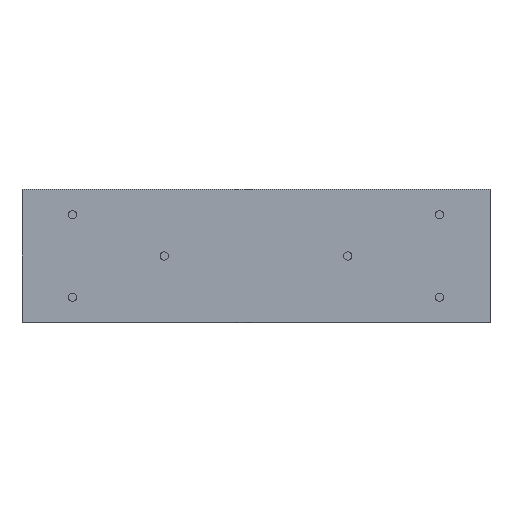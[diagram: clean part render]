
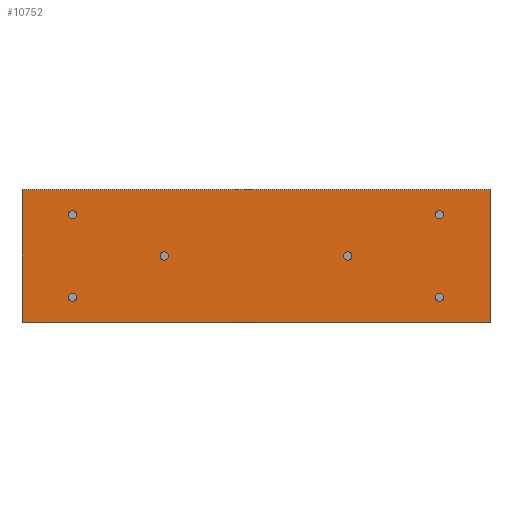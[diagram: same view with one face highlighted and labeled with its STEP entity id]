
A CAD part, front view. The second image highlights one B-rep face of the part: STEP entity #10752.
In plain terms, the highlighted planar face has unit normal (0, -1, 0).
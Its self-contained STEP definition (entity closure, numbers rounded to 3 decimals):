
#358=CIRCLE('',#11390,4.5);
#359=CIRCLE('',#11391,4.5);
#360=CIRCLE('',#11392,4.5);
#361=CIRCLE('',#11393,4.5);
#362=CIRCLE('',#11394,4.5);
#363=CIRCLE('',#11395,4.5);
#1096=ORIENTED_EDGE('',*,*,#4389,.F.);
#1097=ORIENTED_EDGE('',*,*,#4390,.F.);
#1098=ORIENTED_EDGE('',*,*,#4391,.T.);
#1099=ORIENTED_EDGE('',*,*,#4392,.F.);
#1100=ORIENTED_EDGE('',*,*,#4393,.F.);
#1101=ORIENTED_EDGE('',*,*,#4394,.F.);
#1102=ORIENTED_EDGE('',*,*,#4343,.T.);
#1103=ORIENTED_EDGE('',*,*,#4395,.F.);
#1104=ORIENTED_EDGE('',*,*,#4396,.F.);
#1105=ORIENTED_EDGE('',*,*,#4387,.T.);
#4343=EDGE_CURVE('',#5996,#5995,#7099,.T.);
#4387=EDGE_CURVE('',#6030,#5996,#7143,.T.);
#4389=EDGE_CURVE('',#6031,#6031,#358,.T.);
#4390=EDGE_CURVE('',#6032,#6032,#359,.T.);
#4391=EDGE_CURVE('',#6033,#6033,#360,.T.);
#4392=EDGE_CURVE('',#6034,#6034,#361,.T.);
#4393=EDGE_CURVE('',#6035,#6035,#362,.T.);
#4394=EDGE_CURVE('',#6036,#6036,#363,.T.);
#4395=EDGE_CURVE('',#6037,#5995,#7145,.T.);
#4396=EDGE_CURVE('',#6030,#6037,#7146,.T.);
#5995=VERTEX_POINT('',#16238);
#5996=VERTEX_POINT('',#16240);
#6030=VERTEX_POINT('',#16325);
#6031=VERTEX_POINT('',#16329);
#6032=VERTEX_POINT('',#16331);
#6033=VERTEX_POINT('',#16333);
#6034=VERTEX_POINT('',#16335);
#6035=VERTEX_POINT('',#16337);
#6036=VERTEX_POINT('',#16339);
#6037=VERTEX_POINT('',#16341);
#7099=LINE('',#16239,#8099);
#7143=LINE('',#16324,#8143);
#7145=LINE('',#16340,#8145);
#7146=LINE('',#16342,#8146);
#8099=VECTOR('',#12682,1000.);
#8143=VECTOR('',#12740,1000.);
#8145=VECTOR('',#12756,1000.);
#8146=VECTOR('',#12757,1000.);
#9081=EDGE_LOOP('',(#1096));
#9082=EDGE_LOOP('',(#1097));
#9083=EDGE_LOOP('',(#1098));
#9084=EDGE_LOOP('',(#1099));
#9085=EDGE_LOOP('',(#1100));
#9086=EDGE_LOOP('',(#1101));
#9087=EDGE_LOOP('',(#1102,#1103,#1104,#1105));
#9775=FACE_BOUND('',#9081,.T.);
#9776=FACE_BOUND('',#9082,.T.);
#9777=FACE_BOUND('',#9083,.T.);
#9778=FACE_BOUND('',#9084,.T.);
#9779=FACE_BOUND('',#9085,.T.);
#9780=FACE_BOUND('',#9086,.T.);
#9781=FACE_BOUND('',#9087,.T.);
#10469=PLANE('',#11389);
#10752=ADVANCED_FACE('',(#9775,#9776,#9777,#9778,#9779,#9780,#9781),#10469,
 .F.);
#11389=AXIS2_PLACEMENT_3D('',#16327,#12742,#12743);
#11390=AXIS2_PLACEMENT_3D('',#16328,#12744,#12745);
#11391=AXIS2_PLACEMENT_3D('',#16330,#12746,#12747);
#11392=AXIS2_PLACEMENT_3D('',#16332,#12748,#12749);
#11393=AXIS2_PLACEMENT_3D('',#16334,#12750,#12751);
#11394=AXIS2_PLACEMENT_3D('',#16336,#12752,#12753);
#11395=AXIS2_PLACEMENT_3D('',#16338,#12754,#12755);
#12682=DIRECTION('',(0.,0.,-1.));
#12740=DIRECTION('',(-1.,0.,0.));
#12742=DIRECTION('',(0.,1.,0.));
#12743=DIRECTION('',(0.,0.,1.));
#12744=DIRECTION('',(0.,-1.,0.));
#12745=DIRECTION('',(0.,0.,-1.));
#12746=DIRECTION('',(0.,-1.,0.));
#12747=DIRECTION('',(0.,0.,-1.));
#12748=DIRECTION('',(0.,1.,0.));
#12749=DIRECTION('',(0.,0.,1.));
#12750=DIRECTION('',(0.,-1.,0.));
#12751=DIRECTION('',(0.,0.,-1.));
#12752=DIRECTION('',(0.,-1.,0.));
#12753=DIRECTION('',(0.,0.,-1.));
#12754=DIRECTION('',(0.,-1.,0.));
#12755=DIRECTION('',(0.,0.,-1.));
#12756=DIRECTION('',(-1.,0.,0.));
#12757=DIRECTION('',(0.,0.,-1.));
#16238=CARTESIAN_POINT('',(0.,0.,-72.2));
#16239=CARTESIAN_POINT('',(0.,0.,72.2));
#16240=CARTESIAN_POINT('',(0.,0.,72.2));
#16324=CARTESIAN_POINT('',(510.,0.,72.2));
#16325=CARTESIAN_POINT('',(510.,0.,72.2));
#16327=CARTESIAN_POINT('',(510.,0.,72.2));
#16328=CARTESIAN_POINT('',(355.,0.,0.));
#16329=CARTESIAN_POINT('',(355.,0.,-4.5));
#16330=CARTESIAN_POINT('',(155.,0.,0.));
#16331=CARTESIAN_POINT('',(155.,0.,-4.5));
#16332=CARTESIAN_POINT('',(455.,0.,45.));
#16333=CARTESIAN_POINT('',(455.,0.,49.5));
#16334=CARTESIAN_POINT('',(455.,0.,-45.));
#16335=CARTESIAN_POINT('',(455.,0.,-49.5));
#16336=CARTESIAN_POINT('',(55.,0.,-45.));
#16337=CARTESIAN_POINT('',(55.,0.,-49.5));
#16338=CARTESIAN_POINT('',(55.,0.,45.));
#16339=CARTESIAN_POINT('',(55.,0.,40.5));
#16340=CARTESIAN_POINT('',(510.,0.,-72.2));
#16341=CARTESIAN_POINT('',(510.,0.,-72.2));
#16342=CARTESIAN_POINT('',(510.,0.,72.2));
